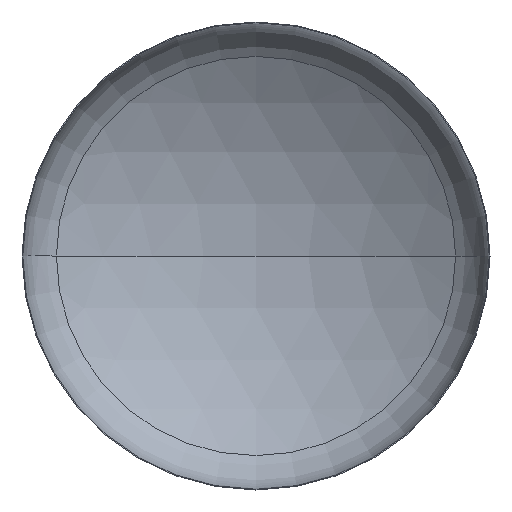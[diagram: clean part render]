
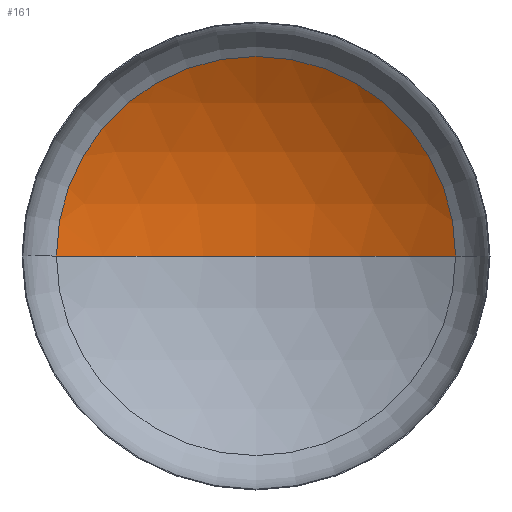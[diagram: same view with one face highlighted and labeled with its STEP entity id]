
A CAD part, front view. The second image highlights one B-rep face of the part: STEP entity #161.
In plain terms, the highlighted spherical face has radius 6000 mm.
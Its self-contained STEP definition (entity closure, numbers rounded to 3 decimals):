
#6 = AXIS2_PLACEMENT_3D ( 'NONE', #166, #168, #331 ) ;
#14 = EDGE_CURVE ( 'NONE', #108, #33, #357, .T. ) ;
#16 = EDGE_CURVE ( 'NONE', #84, #108, #298, .T. ) ;
#19 = EDGE_CURVE ( 'NONE', #84, #33, #28, .T. ) ;
#28 = CIRCLE ( 'NONE', #63, 6000. ) ;
#33 = VERTEX_POINT ( 'NONE', #352 ) ;
#40 = ORIENTED_EDGE ( 'NONE', *, *, #19, .F. ) ;
#63 = AXIS2_PLACEMENT_3D ( 'NONE', #334, #332, #402 ) ;
#84 = VERTEX_POINT ( 'NONE', #181 ) ;
#106 = EDGE_LOOP ( 'NONE', ( #40, #129, #115 ) ) ;
#108 = VERTEX_POINT ( 'NONE', #405 ) ;
#115 = ORIENTED_EDGE ( 'NONE', *, *, #14, .T. ) ;
#129 = ORIENTED_EDGE ( 'NONE', *, *, #16, .T. ) ;
#138 = SPHERICAL_SURFACE ( 'NONE', #261, 6000. ) ;
#161 = ADVANCED_FACE ( 'NONE', ( #333 ), #138, .F. ) ;
#162 = DIRECTION ( 'NONE',  ( 0., 0., -1. ) ) ;
#166 = CARTESIAN_POINT ( 'NONE',  ( 0., -4059.041, 0. ) ) ;
#168 = DIRECTION ( 'NONE',  ( 0., 0., -1. ) ) ;
#181 = CARTESIAN_POINT ( 'NONE',  ( 0., 1940.959, 0. ) ) ;
#207 = DIRECTION ( 'NONE',  ( -1., 0., 0. ) ) ;
#232 = CARTESIAN_POINT ( 'NONE',  ( 0., -4059.041, 0. ) ) ;
#261 = AXIS2_PLACEMENT_3D ( 'NONE', #232, #162, #207 ) ;
#298 = CIRCLE ( 'NONE', #6, 6000. ) ;
#306 = DIRECTION ( 'NONE',  ( 1., 0., 0. ) ) ;
#308 = DIRECTION ( 'NONE',  ( 0., -1., 0. ) ) ;
#311 = CARTESIAN_POINT ( 'NONE',  ( 0., 1017.171, 0. ) ) ;
#331 = DIRECTION ( 'NONE',  ( -1., 0., 0. ) ) ;
#332 = DIRECTION ( 'NONE',  ( 0., 0., 1. ) ) ;
#333 = FACE_OUTER_BOUND ( 'NONE', #106, .T. ) ;
#334 = CARTESIAN_POINT ( 'NONE',  ( 0., -4059.041, 0. ) ) ;
#352 = CARTESIAN_POINT ( 'NONE',  ( -3198.762, 1017.171, 0. ) ) ;
#357 = CIRCLE ( 'NONE', #396, 3198.762 ) ;
#396 = AXIS2_PLACEMENT_3D ( 'NONE', #311, #308, #306 ) ;
#402 = DIRECTION ( 'NONE',  ( 1., 0., 0. ) ) ;
#405 = CARTESIAN_POINT ( 'NONE',  ( 3198.762, 1017.171, 0. ) ) ;
